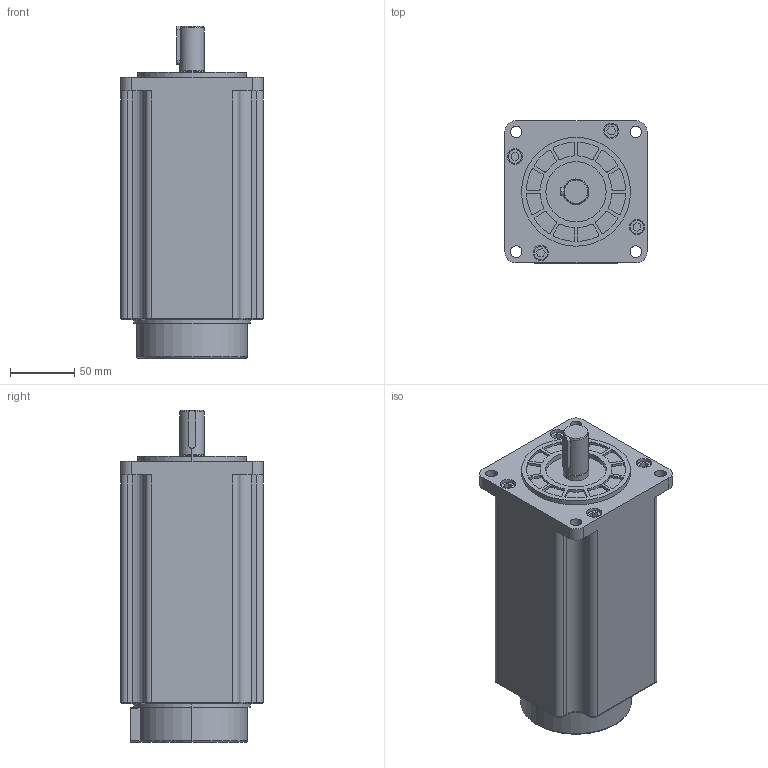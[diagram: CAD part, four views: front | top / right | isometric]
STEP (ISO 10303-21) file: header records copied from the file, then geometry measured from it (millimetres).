
FILE_DESCRIPTION (( 'STEP AP214' ), '1' );
FILE_NAME ('FHB31122祭輛萇儂誘欶.STEP', '2019-08-14T02:36:06', ( 'hzmg' ), ( '' ), 'SwSTEP 2.0', 'SolidWorks 2016', '' );
FILE_SCHEMA (( 'AUTOMOTIVE_DESIGN' ));
Length unit declared in the file: millimetre
Products named in the file (1): FHB31122祭輛萇儂誘欶
Bounding box: 111 x 111 x 259 mm (x, y, z)
Volume: 2283865.3 mm3; surface area: 119123.2 mm2
Topology: 1 solids, 1 shells, 276 faces, 702 edges, 456 vertices
Faces by surface type: cylinder 155, plane 102, torus 15, cone 4
Entity records: 8547 total; most frequent: DIRECTION 1569, CARTESIAN_POINT 1531, ORIENTED_EDGE 1404, EDGE_CURVE 702, AXIS2_PLACEMENT_3D 600, VERTEX_POINT 456, VECTOR 369, LINE 369
